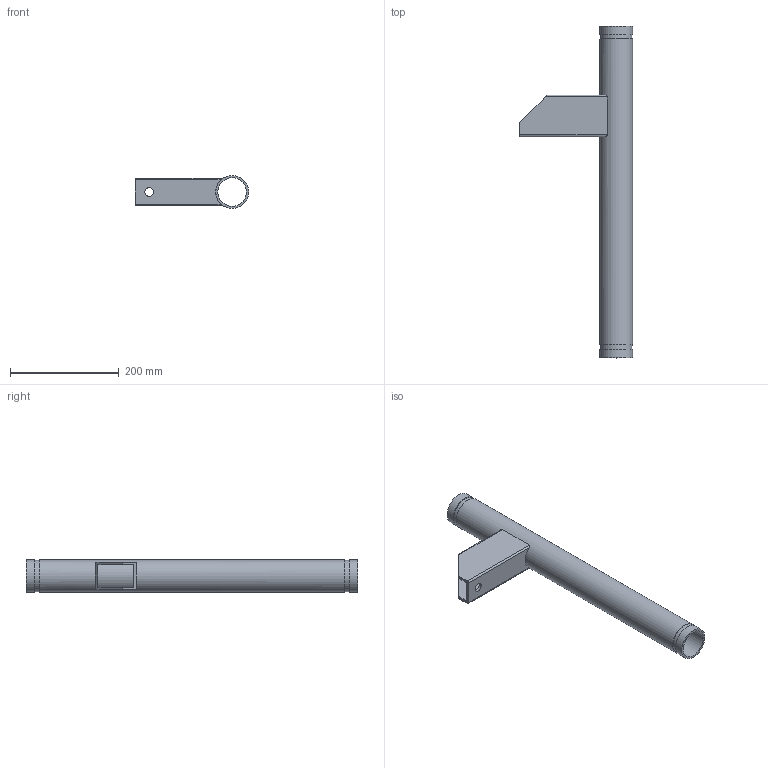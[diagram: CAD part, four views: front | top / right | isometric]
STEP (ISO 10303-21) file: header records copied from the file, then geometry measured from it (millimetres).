
FILE_DESCRIPTION(/* description */ ('VIC FLOOR MOUNTED RISER ANCHOR No A40'),/* implementation_level */ '2;1');
FILE_NAME(/* name */ 'C:\Files for Export\A40 & A40S-STEP-SWX\STEP\Victaulic_IPS_Riser Anchor_No A40 (OGS)\Victaulic_IPS_Riser Anchor_No A40 (OGS)_2 (50).stp',/* time_stamp */ '2024-06-07T07:36:16+02:00',/* author */ ('kkamble'),/* organization */ ('Victaulic'),/* preprocessor_version */ 'ST-DEVELOPER v18.1',/* originating_system */ 'Autodesk Inventor 2020',/* authorisation */ '');
FILE_SCHEMA (('AUTOMOTIVE_DESIGN { 1 0 10303 214 3 1 1 }'));
Length unit declared in the file: inch
Products named in the file (1): A40-02.0
Bounding box: 207.96 x 609.6 x 60.33 mm (x, y, z)
Volume: 573262.7 mm3; surface area: 281190.9 mm2
Topology: 1 solids, 1 shells, 28 faces, 78 edges, 56 vertices
Faces by surface type: plane 16, cylinder 12
Full cylindrical faces by diameter (mm): 15.875 x1, 52.578 x1, 57.15 x2, 60.325 x3
Entity records: 1049 total; most frequent: CARTESIAN_POINT 207, DIRECTION 168, ORIENTED_EDGE 156, EDGE_CURVE 78, AXIS2_PLACEMENT_3D 65, VERTEX_POINT 56, LINE 38, VECTOR 38
